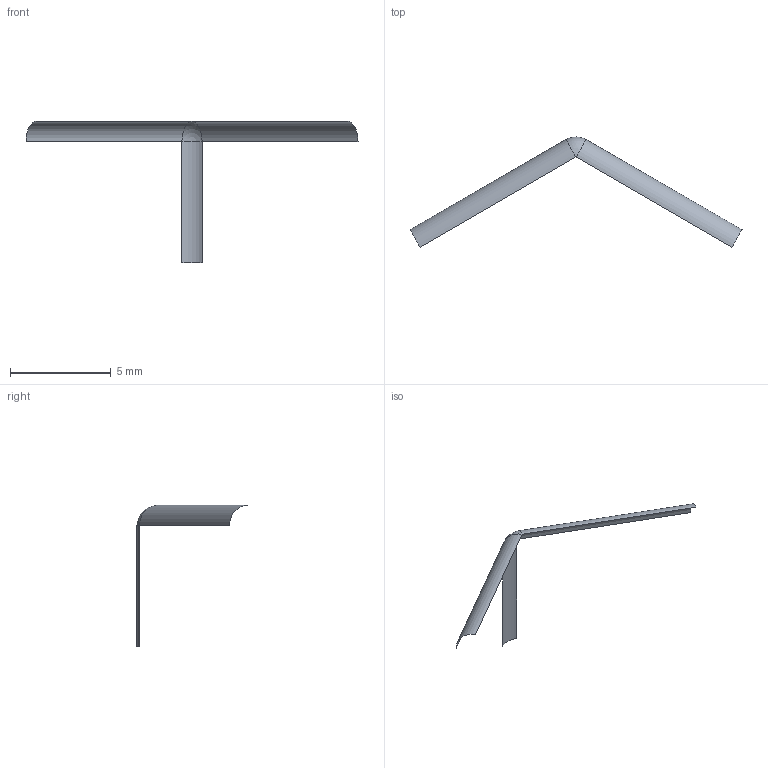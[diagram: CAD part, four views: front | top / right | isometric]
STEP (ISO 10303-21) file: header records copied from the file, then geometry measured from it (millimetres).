
FILE_DESCRIPTION(('BRL-CAD AP203 shared periodic boundary split regression'),'2;1');
FILE_NAME('ap203_shared_periodic_boundary_split.stp','2026-07-24T00:00:00',('BRL-CAD'),('BRL-CAD'),'','','');
FILE_SCHEMA(('CONFIG_CONTROL_DESIGN'));
Length unit declared in the file: millimetre
Products named in the file (1): shared_periodic_boundary_split
Bounding box: 16.45 x 5.46 x 7 mm (x, y, z)
Surface area: 35.3 mm2 (no closed solid volume)
Topology: 0 solids, 1 shells, 4 faces, 14 edges, 10 vertices
Faces by surface type: cylinder 3, sphere 1
Entity records: 151 total; most frequent: DIRECTION 28, CARTESIAN_POINT 26, ORIENTED_EDGE 15, EDGE_CURVE 12, AXIS2_PLACEMENT_3D 11, VERTEX_POINT 9, VECTOR 6, CIRCLE 6
